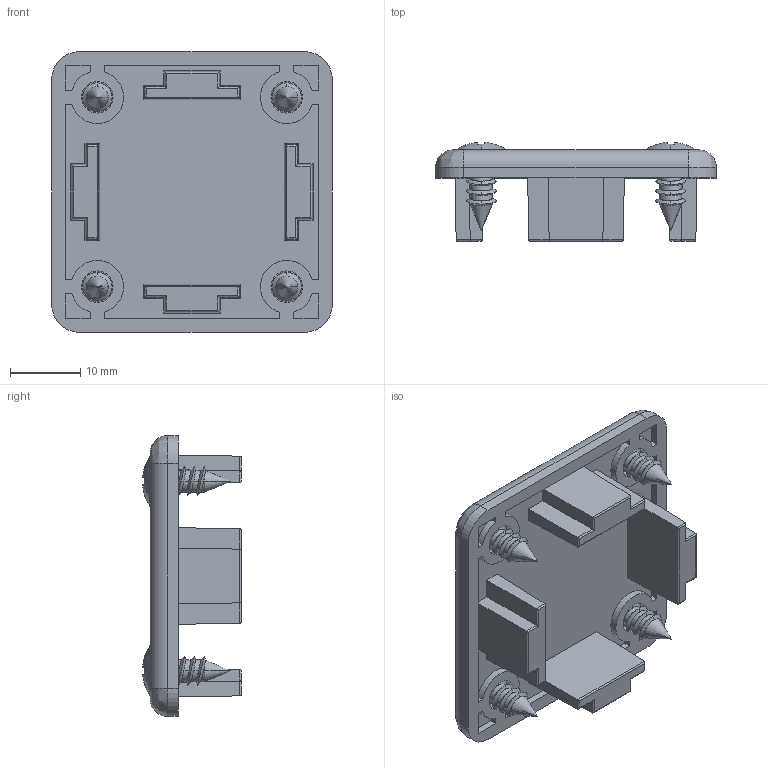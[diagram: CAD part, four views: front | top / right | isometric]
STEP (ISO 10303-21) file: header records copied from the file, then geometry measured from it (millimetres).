
FILE_DESCRIPTION (( 'STEP AP214' ), '1' );
FILE_NAME ('11483_KANAABDSTZ4040.STEP', '2017-03-02T14:21:11', ( '' ), ( '' ), 'SwSTEP 2.0', 'SolidWorks 2016', '' );
FILE_SCHEMA (( 'AUTOMOTIVE_DESIGN' ));
Length unit declared in the file: millimetre
Products named in the file (1): 11483_KANAABDSTZ4040
Bounding box: 40 x 14.06 x 40 mm (x, y, z)
Volume: 6826.7 mm3; surface area: 6487.7 mm2
Topology: 5 solids, 5 shells, 397 faces, 1050 edges, 660 vertices
Faces by surface type: plane 151, cylinder 118, cone 100, bspline 28
Entity records: 17984 total; most frequent: CARTESIAN_POINT 4370, ORIENTED_EDGE 2068, DIRECTION 1746, EDGE_CURVE 1034, AXIS2_PLACEMENT_3D 666, VERTEX_POINT 660, EDGE_LOOP 418, LINE 414
